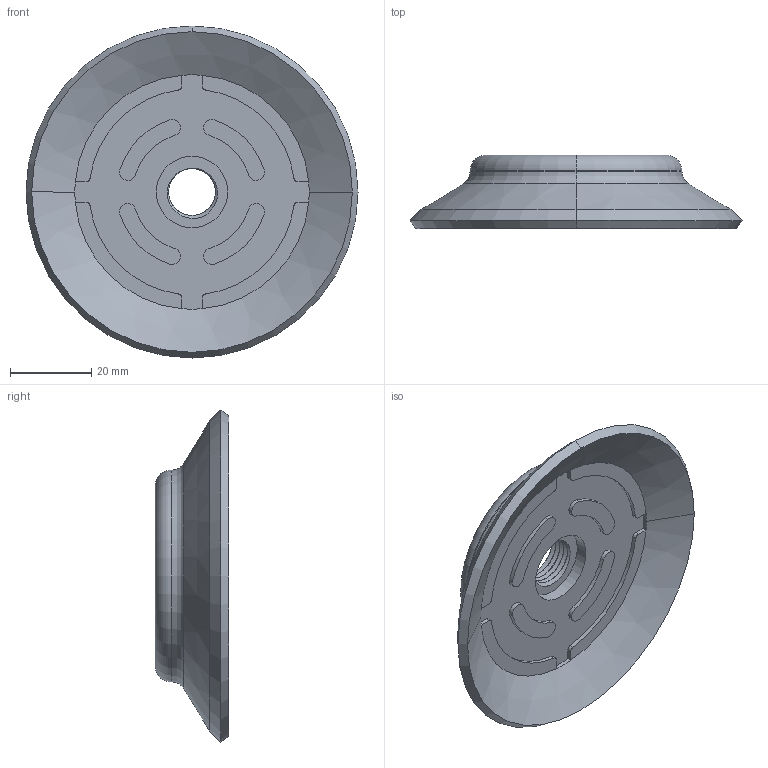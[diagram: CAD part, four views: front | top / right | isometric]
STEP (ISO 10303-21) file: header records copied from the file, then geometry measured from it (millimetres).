
FILE_DESCRIPTION (( 'STEP AP203' ), '1' );
FILE_NAME ('PFG_80--F14.STEP', '2018-07-31T07:23:06', ( '' ), ( '' ), 'SwSTEP 2.0', 'SolidWorks 2016', '' );
FILE_SCHEMA (( 'CONFIG_CONTROL_DESIGN' ));
Length unit declared in the file: millimetre
Products named in the file (1): PFG_80--F14
Bounding box: 81.5 x 18 x 81.5 mm (x, y, z)
Volume: 33661.8 mm3; surface area: 18707.7 mm2
Topology: 2 solids, 2 shells, 93 faces, 230 edges, 147 vertices
Faces by surface type: cylinder 57, plane 22, cone 8, torus 4, bspline 2
Entity records: 5685 total; most frequent: CARTESIAN_POINT 3353, DIRECTION 506, ORIENTED_EDGE 460, EDGE_CURVE 230, AXIS2_PLACEMENT_3D 209, VERTEX_POINT 147, CIRCLE 117, EDGE_LOOP 103
